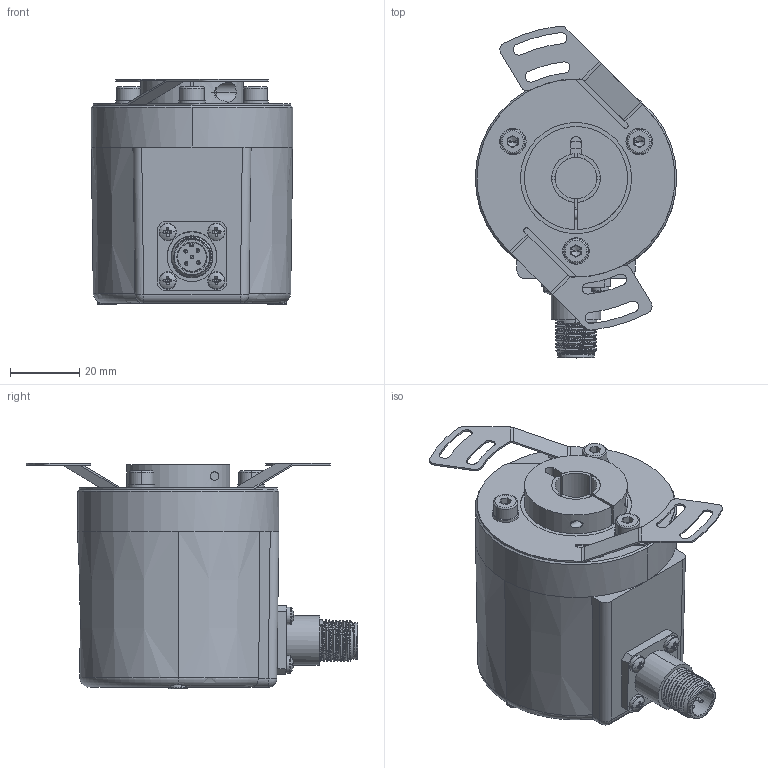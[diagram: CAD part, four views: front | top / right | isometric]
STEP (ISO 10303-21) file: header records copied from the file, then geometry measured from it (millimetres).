
FILE_DESCRIPTION (( 'STEP AP203' ), '1' );
FILE_NAME ('E58HS-ANA-452#-##-CB0.STEP', '2023-11-21T15:55:34', ( '' ), ( '' ), 'SwSTEP 2.0', 'SolidWorks 2021', '' );
FILE_SCHEMA (( 'CONFIG_CONTROL_DESIGN' ));
Length unit declared in the file: millimetre
Products named in the file (1): E58HS-ANA-452#-##-CB0
Bounding box: 58 x 95.51 x 64.9 mm (x, y, z)
Surface area: 29335.6 mm2 (no closed solid volume)
Topology: 0 solids, 49 shells, 936 faces, 2210 edges, 1349 vertices
Faces by surface type: cylinder 360, plane 318, cone 144, torus 76, sphere 22, bspline 16
Entity records: 29768 total; most frequent: CARTESIAN_POINT 7924, DIRECTION 4900, ORIENTED_EDGE 4302, EDGE_CURVE 2153, AXIS2_PLACEMENT_3D 2020, VERTEX_POINT 1339, CIRCLE 1099, EDGE_LOOP 1052
